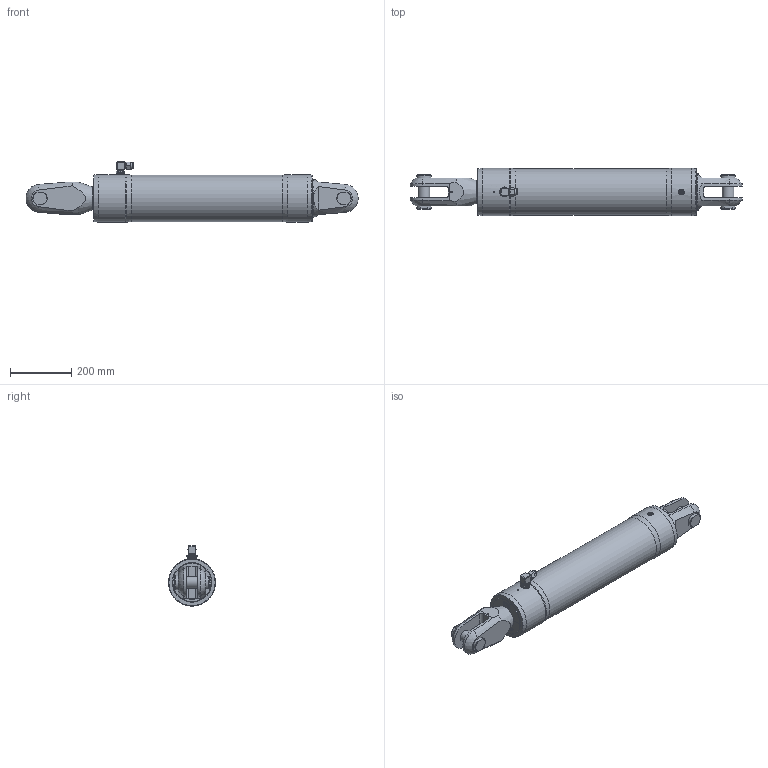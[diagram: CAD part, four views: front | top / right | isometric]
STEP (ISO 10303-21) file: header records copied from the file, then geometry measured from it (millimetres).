
FILE_DESCRIPTION(/* description */ (''),/* implementation_level */ '2;1');
FILE_NAME(/* name */ 'Q:\AA BRAND HYDRAULICS\HYDRAULICS FAMILY DIRECTORY\HYDRAULICS\CYLINDERS\RAMS\ALUMINIUM - STANDARD SINGLE ACTING (-0006 To -0260)\RSA-0115-S0475-NP-71\RSA-0115-S0475-NP-71 (Closed).stp',/* time_stamp */ '2017-11-30T14:15:34+00:00',/* author */ ('Lorena'),/* organization */ (''),/* preprocessor_version */ 'ST-DEVELOPER v16.13',/* originating_system */ 'Autodesk Inventor 2018',/* authorisation */ '');
FILE_SCHEMA (('AUTOMOTIVE_DESIGN { 1 0 10303 214 3 1 1 }'));
Products named in the file (1): RSA-0115-S0475-NP-71 (Closed)
Bounding box: 1087.99 x 155.4 x 197.3 mm (x, y, z)
Volume: 15309909.7 mm3; surface area: 572561 mm2
Topology: 1 solids, 4 shells, 1615 faces, 4284 edges, 2826 vertices
Faces by surface type: plane 895, bspline 573, cylinder 81, cone 57, torus 5, sphere 4
Full cylindrical faces by diameter (mm): 4 x1, 4.134 x1, 4.2 x2, 5 x1, 7 x1, 9 x1, 9.9 x1, 10 x2, 11.1 x1, 12 x2, 13 x2, 18.9 x1, 19 x1, 19.11 x1, 19.9 x1, 20 x1, 20.9 x2, 22 x2, 24 x2, 27.8 x2, 30 x1, 38.1 x2, 47.625 x2, 94 x1, 152.4 x1, 155.4 x4
Entity records: 56668 total; most frequent: CARTESIAN_POINT 19325, ORIENTED_EDGE 8322, DIRECTION 5303, EDGE_CURVE 4161, VERTEX_POINT 2788, LINE 2683, VECTOR 2683, EDGE_LOOP 1854
